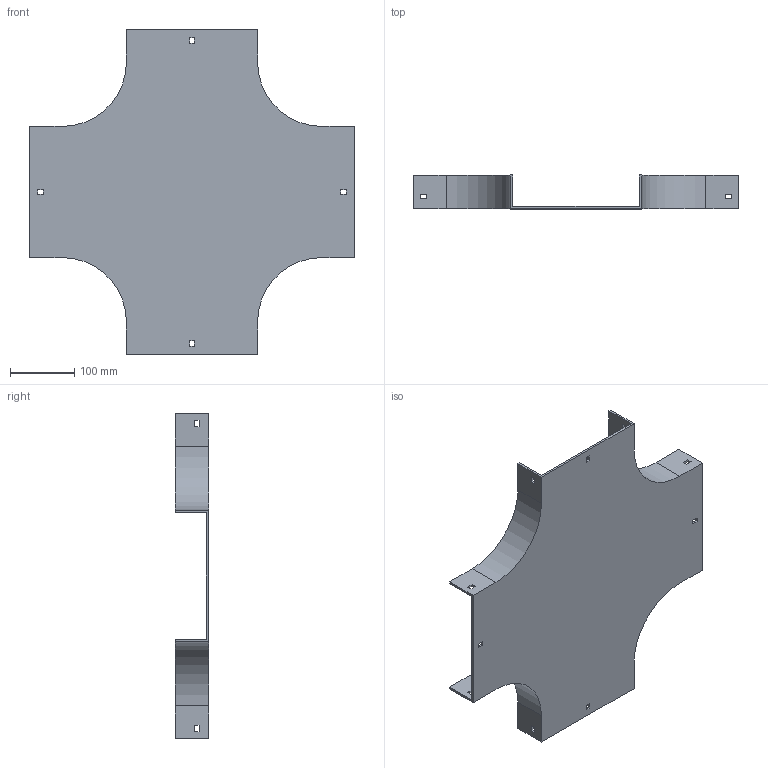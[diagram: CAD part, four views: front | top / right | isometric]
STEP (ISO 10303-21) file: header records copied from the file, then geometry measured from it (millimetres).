
FILE_DESCRIPTION (( 'STEP AP214' ), '1' );
FILE_NAME ('17B1B200.step', '2025-02-21T09:57:12', ( '' ), ( '' ), 'SwSTEP 2.0', 'SolidWorks 2023', '' );
FILE_SCHEMA (( 'AUTOMOTIVE_DESIGN' ));
Length unit declared in the file: millimetre
Products named in the file (1): 17B1B200
Bounding box: 504 x 52 x 504 mm (x, y, z)
Volume: 777744.8 mm3; surface area: 453624.7 mm2
Topology: 1 solids, 1 shells, 82 faces, 240 edges, 160 vertices
Faces by surface type: plane 74, cylinder 8
Entity records: 2751 total; most frequent: CARTESIAN_POINT 483, ORIENTED_EDGE 480, DIRECTION 422, EDGE_CURVE 240, LINE 224, VECTOR 224, VERTEX_POINT 160, EDGE_LOOP 106
